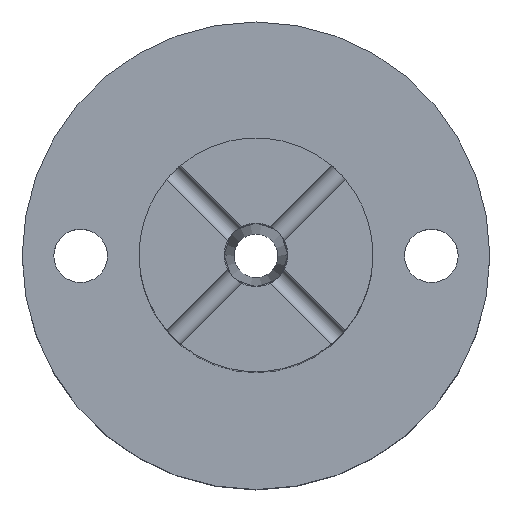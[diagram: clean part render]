
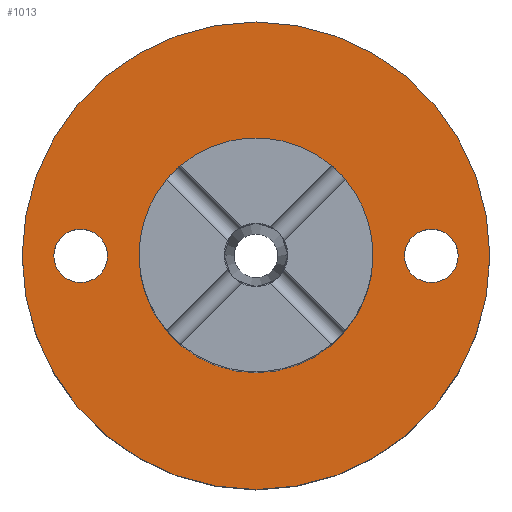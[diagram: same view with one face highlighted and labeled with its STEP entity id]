
A CAD part, top view. The second image highlights one B-rep face of the part: STEP entity #1013.
In plain terms, the highlighted planar face has unit normal (0, 0, 1).
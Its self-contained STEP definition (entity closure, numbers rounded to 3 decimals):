
#17 = ORIENTED_EDGE ( 'NONE', *, *, #364, .F. ) ;
#22 = CIRCLE ( 'NONE', #653, 24. ) ;
#29 = FACE_BOUND ( 'NONE', #276, .T. ) ;
#33 = EDGE_CURVE ( 'NONE', #420, #788, #541, .T. ) ;
#35 = FACE_BOUND ( 'NONE', #617, .T. ) ;
#36 = AXIS2_PLACEMENT_3D ( 'NONE', #796, #136, #654 ) ;
#46 = CARTESIAN_POINT ( 'NONE',  ( -12., 0., 0. ) ) ;
#73 = DIRECTION ( 'NONE',  ( 1., 0., 0. ) ) ;
#83 = DIRECTION ( 'NONE',  ( 1., 0., 0. ) ) ;
#99 = CARTESIAN_POINT ( 'NONE',  ( -18., 0., 0. ) ) ;
#103 = AXIS2_PLACEMENT_3D ( 'NONE', #437, #348, #692 ) ;
#115 = CIRCLE ( 'NONE', #637, 24. ) ;
#116 = EDGE_CURVE ( 'NONE', #367, #374, #22, .T. ) ;
#129 = ORIENTED_EDGE ( 'NONE', *, *, #357, .F. ) ;
#130 = EDGE_LOOP ( 'NONE', ( #878, #991 ) ) ;
#136 = DIRECTION ( 'NONE',  ( 0., 0., 1. ) ) ;
#144 = CARTESIAN_POINT ( 'NONE',  ( 24., 0., 0. ) ) ;
#149 = CARTESIAN_POINT ( 'NONE',  ( 0., 0., 0. ) ) ;
#155 = DIRECTION ( 'NONE',  ( 0., 0., 1. ) ) ;
#157 = CARTESIAN_POINT ( 'NONE',  ( 0., 0., 0. ) ) ;
#161 = AXIS2_PLACEMENT_3D ( 'NONE', #806, #218, #561 ) ;
#165 = ORIENTED_EDGE ( 'NONE', *, *, #33, .F. ) ;
#171 = DIRECTION ( 'NONE',  ( 0., 0., 1. ) ) ;
#172 = EDGE_CURVE ( 'NONE', #533, #403, #286, .T. ) ;
#176 = DIRECTION ( 'NONE',  ( 1., 0., 0. ) ) ;
#183 = DIRECTION ( 'NONE',  ( 1., 0., 0. ) ) ;
#185 = EDGE_LOOP ( 'NONE', ( #1045, #634 ) ) ;
#199 = CIRCLE ( 'NONE', #664, 2.75 ) ;
#209 = FACE_BOUND ( 'NONE', #130, .T. ) ;
#218 = DIRECTION ( 'NONE',  ( 0., 0., 1. ) ) ;
#221 = CARTESIAN_POINT ( 'NONE',  ( -24., 0., 0. ) ) ;
#264 = CARTESIAN_POINT ( 'NONE',  ( 0., 0., 0. ) ) ;
#276 = EDGE_LOOP ( 'NONE', ( #129, #165 ) ) ;
#286 = CIRCLE ( 'NONE', #36, 2.75 ) ;
#289 = VERTEX_POINT ( 'NONE', #483 ) ;
#299 = CARTESIAN_POINT ( 'NONE',  ( 15.25, 0., 0. ) ) ;
#348 = DIRECTION ( 'NONE',  ( 0., 0., 1. ) ) ;
#357 = EDGE_CURVE ( 'NONE', #788, #420, #935, .T. ) ;
#364 = EDGE_CURVE ( 'NONE', #1006, #289, #962, .T. ) ;
#367 = VERTEX_POINT ( 'NONE', #144 ) ;
#374 = VERTEX_POINT ( 'NONE', #221 ) ;
#376 = FACE_OUTER_BOUND ( 'NONE', #185, .T. ) ;
#403 = VERTEX_POINT ( 'NONE', #842 ) ;
#404 = AXIS2_PLACEMENT_3D ( 'NONE', #149, #492, #83 ) ;
#420 = VERTEX_POINT ( 'NONE', #662 ) ;
#430 = DIRECTION ( 'NONE',  ( 0., 0., 1. ) ) ;
#437 = CARTESIAN_POINT ( 'NONE',  ( 18., 0., 0. ) ) ;
#438 = CARTESIAN_POINT ( 'NONE',  ( -15.25, 0., 0. ) ) ;
#474 = DIRECTION ( 'NONE',  ( 1., 0., 0. ) ) ;
#483 = CARTESIAN_POINT ( 'NONE',  ( 20.75, 0., 0. ) ) ;
#492 = DIRECTION ( 'NONE',  ( 0., 0., 1. ) ) ;
#522 = DIRECTION ( 'NONE',  ( 0., 0., 1. ) ) ;
#533 = VERTEX_POINT ( 'NONE', #438 ) ;
#541 = CIRCLE ( 'NONE', #404, 12. ) ;
#561 = DIRECTION ( 'NONE',  ( 1., 0., 0. ) ) ;
#617 = EDGE_LOOP ( 'NONE', ( #17, #890 ) ) ;
#634 = ORIENTED_EDGE ( 'NONE', *, *, #982, .T. ) ;
#637 = AXIS2_PLACEMENT_3D ( 'NONE', #885, #738, #474 ) ;
#653 = AXIS2_PLACEMENT_3D ( 'NONE', #157, #430, #850 ) ;
#654 = DIRECTION ( 'NONE',  ( 1., 0., 0. ) ) ;
#662 = CARTESIAN_POINT ( 'NONE',  ( 12., 0., 0. ) ) ;
#664 = AXIS2_PLACEMENT_3D ( 'NONE', #1019, #155, #73 ) ;
#684 = AXIS2_PLACEMENT_3D ( 'NONE', #264, #522, #176 ) ;
#692 = DIRECTION ( 'NONE',  ( 1., 0., 0. ) ) ;
#704 = CIRCLE ( 'NONE', #953, 2.75 ) ;
#738 = DIRECTION ( 'NONE',  ( 0., 0., 1. ) ) ;
#788 = VERTEX_POINT ( 'NONE', #46 ) ;
#796 = CARTESIAN_POINT ( 'NONE',  ( -18., 0., 0. ) ) ;
#806 = CARTESIAN_POINT ( 'NONE',  ( 0., 0., 0. ) ) ;
#828 = EDGE_CURVE ( 'NONE', #289, #1006, #199, .T. ) ;
#842 = CARTESIAN_POINT ( 'NONE',  ( -20.75, 0., 0. ) ) ;
#850 = DIRECTION ( 'NONE',  ( 1., 0., 0. ) ) ;
#878 = ORIENTED_EDGE ( 'NONE', *, *, #888, .F. ) ;
#885 = CARTESIAN_POINT ( 'NONE',  ( 0., 0., 0. ) ) ;
#888 = EDGE_CURVE ( 'NONE', #403, #533, #704, .T. ) ;
#890 = ORIENTED_EDGE ( 'NONE', *, *, #828, .F. ) ;
#935 = CIRCLE ( 'NONE', #684, 12. ) ;
#953 = AXIS2_PLACEMENT_3D ( 'NONE', #99, #171, #183 ) ;
#962 = CIRCLE ( 'NONE', #103, 2.75 ) ;
#982 = EDGE_CURVE ( 'NONE', #374, #367, #115, .T. ) ;
#987 = PLANE ( 'NONE',  #161 ) ;
#991 = ORIENTED_EDGE ( 'NONE', *, *, #172, .F. ) ;
#1006 = VERTEX_POINT ( 'NONE', #299 ) ;
#1013 = ADVANCED_FACE ( 'NONE', ( #35, #209, #376, #29 ), #987, .T. ) ;
#1019 = CARTESIAN_POINT ( 'NONE',  ( 18., 0., 0. ) ) ;
#1045 = ORIENTED_EDGE ( 'NONE', *, *, #116, .T. ) ;
